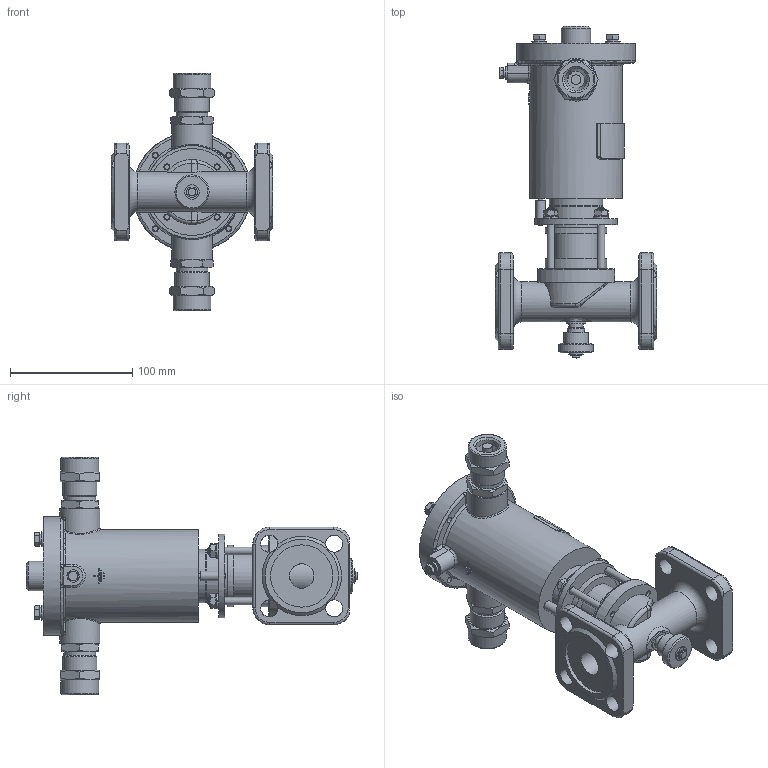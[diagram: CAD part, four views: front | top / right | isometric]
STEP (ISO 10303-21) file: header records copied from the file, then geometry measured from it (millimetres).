
FILE_DESCRIPTION(('STEP AP203'), '1');
FILE_NAME('ÑÅÍÑ DN20PN25-Â-ÑÂ.stp', '2018-09-19T08:43:57', ('Îðëîâ Å.Â.'), ('ÎÎÎ ÍÏÏ Ñåíñîð'), 'ASCON STEP Converter 1.3', 'Kompas 3D', '');
FILE_SCHEMA(('CONFIG_CONTROL_DESIGN','SUPPORT_RESOURCE_SCHEMA'));
Length unit declared in the file: millimetre
Products named in the file (1): 45
Bounding box: 132 x 271.5 x 194 mm (x, y, z)
Volume: 681383.2 mm3; surface area: 225430.7 mm2
Topology: 3 solids, 18 shells, 1976 faces, 5237 edges, 3409 vertices
Faces by surface type: cylinder 1023, plane 735, cone 127, torus 40, bspline 35, extrusion 16
Full cylindrical faces by diameter (mm): 2.459 x4, 4 x8, 4.134 x1, 4.5 x2, 4.917 x4, 5 x6, 5.1 x1, 6 x16, 6.1 x1, 6.3 x2, 6.4 x1, 6.5 x11, 8 x7, 9 x1, 10 x3, 11.5 x1, 12 x5, 12.376 x1, 13 x2, 14 x9, 15 x1, 16 x1, 18.632 x2, 20 x6, 20.5 x1, 22 x2, 22.376 x2, 22.5 x1, 23.5 x3, 24 x3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
Entity records: 76946 total; most frequent: CARTESIAN_POINT 26535, DIRECTION 10971, ORIENTED_EDGE 10450, EDGE_CURVE 5225, AXIS2_PLACEMENT_3D 4240, VERTEX_POINT 3409, VECTOR 2491, LINE 2475
